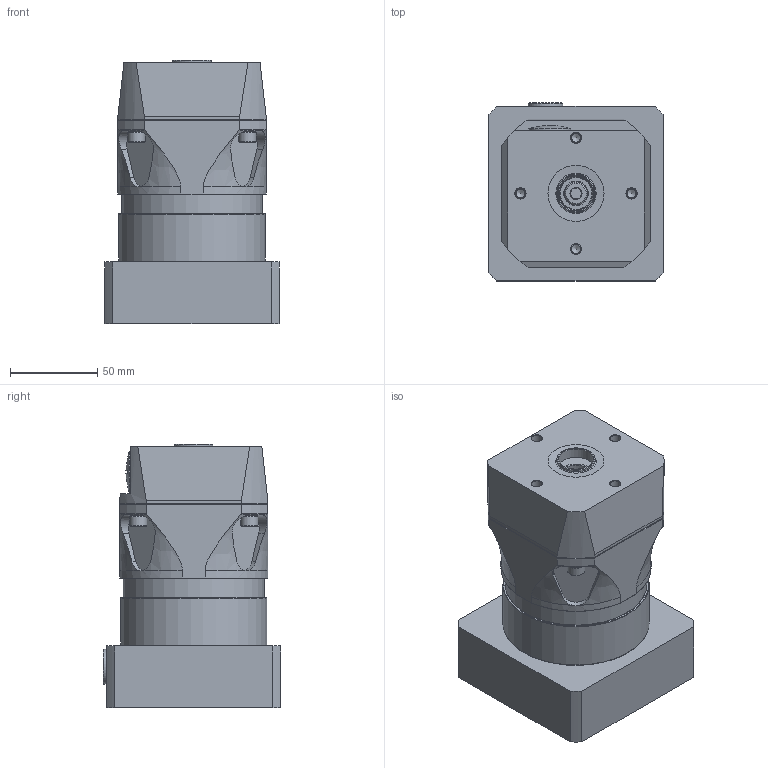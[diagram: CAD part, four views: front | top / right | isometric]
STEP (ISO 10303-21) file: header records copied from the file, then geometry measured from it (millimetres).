
FILE_DESCRIPTION (( 'STEP AP214' ), '1' );
FILE_NAME ('EPL-U-084-M2001-H1298 (19mm).STEP', '2024-10-24T19:51:48', ( '' ), ( '' ), 'SwSTEP 2.0', 'SolidWorks 2020', '' );
FILE_SCHEMA (( 'AUTOMOTIVE_DESIGN' ));
Length unit declared in the file: millimetre
Products named in the file (15): EPL-U-084 Fixed Holes; 47050011 BVL M6 6x10x0.70mm ST; H1298_EPL-U-084; 4506XXXX M6 SHCS_M6 X 20                                            ; 4505XXXX M5 SHCS_M5 X 65                                            ; 51020004 M20 Threaded Plug; 47050010 BVL M5 5x9x0.60mm ST; EPL-U-084-M2001-H1298 (19mm); 47050012 BVL M8 8x13x0.80mm ST; 51040002 14mm Plug; 55010071; 55012114 EPL-U-084 to Macron 40-25 Adapter; M2001_EPL-084; 4508XXXX M8 SHCS_M8 X 25; 23040181 EPL-U-084 to Macron 40-25 0.7500in Shaft
Assembly tree (26 placements, depth 3):
  EPL-U-084-M2001-H1298 (19mm)
    H1298_EPL-U-084
      55012114 EPL-U-084 to Macron 40-25 Adapter
      47050012 BVL M8 8x13x0.80mm ST
      4508XXXX M8 SHCS_M8 X 25
      47050011 BVL M6 6x10x0.70mm ST  x4
      4506XXXX M6 SHCS_M6 X 20                                              x4
      23040181 EPL-U-084 to Macron 40-25 0.7500in Shaft
      51020004 M20 Threaded Plug
    EPL-U-084 Fixed Holes
    M2001_EPL-084
      51040002 14mm Plug
      55010071
    4505XXXX M5 SHCS_M5 X 65                                              x4
    47050010 BVL M5 5x9x0.60mm ST  x4
Bounding box: 100 x 102 x 151.15 mm (x, y, z)
Volume: 374813.2 mm3; surface area: 237352.2 mm2
Topology: 24 solids, 76 shells, 3853 faces, 10683 edges, 7037 vertices
Faces by surface type: cone 1393, bspline 1249, cylinder 593, plane 576, torus 41, sphere 1
Full cylindrical faces by diameter (mm): 2 x2, 2.5 x5, 2.8 x1, 4 x1, 4.2 x12, 4.5 x1, 5 x31, 5.448 x8, 5.5 x6, 5.55 x4, 6 x14, 6.8 x8, 7 x2, 8 x8, 8.5 x6, 9 x5, 9.1 x2, 10 x6, 10.5 x1, 11 x1, 13 x2, 14 x3, 15 x1, 16 x1, 16.5 x1, 18 x1, 18.5 x1, 19 x1, 19.05 x1, 19.3 x1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
Entity records: 99570 total; most frequent: CARTESIAN_POINT 36959, ORIENTED_EDGE 10922, DIRECTION 8073, EDGE_CURVE 5465, VERTEX_POINT 3759, AXIS2_PLACEMENT_3D 3508, EDGE_LOOP 2786, B_SPLINE_CURVE_WITH_KNOTS 2575
